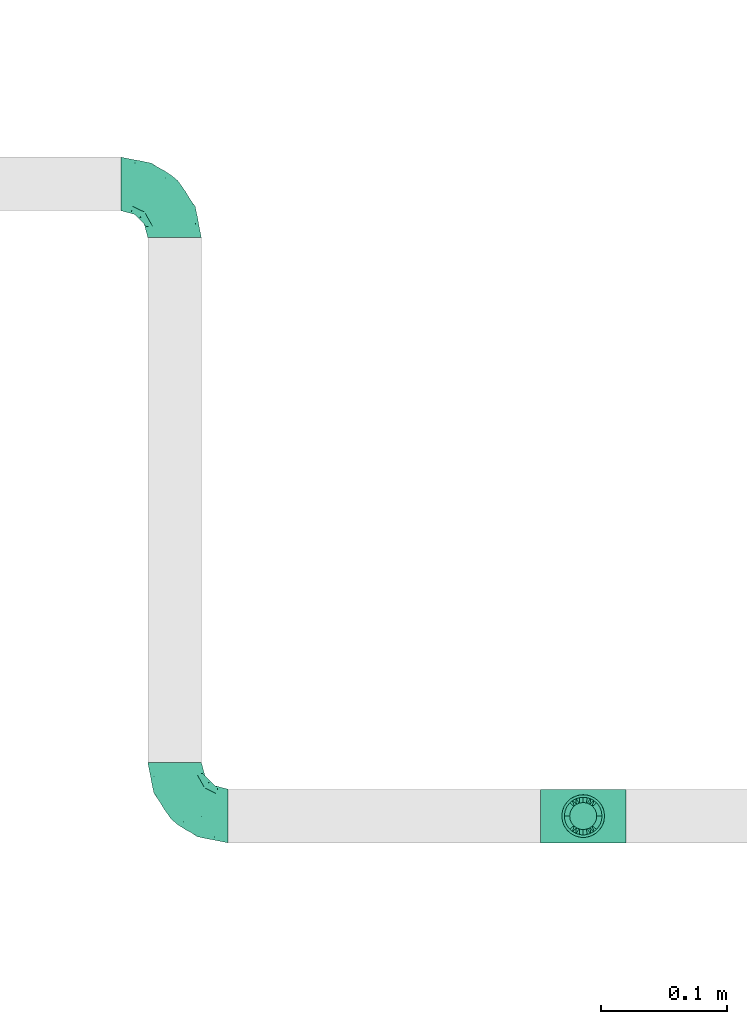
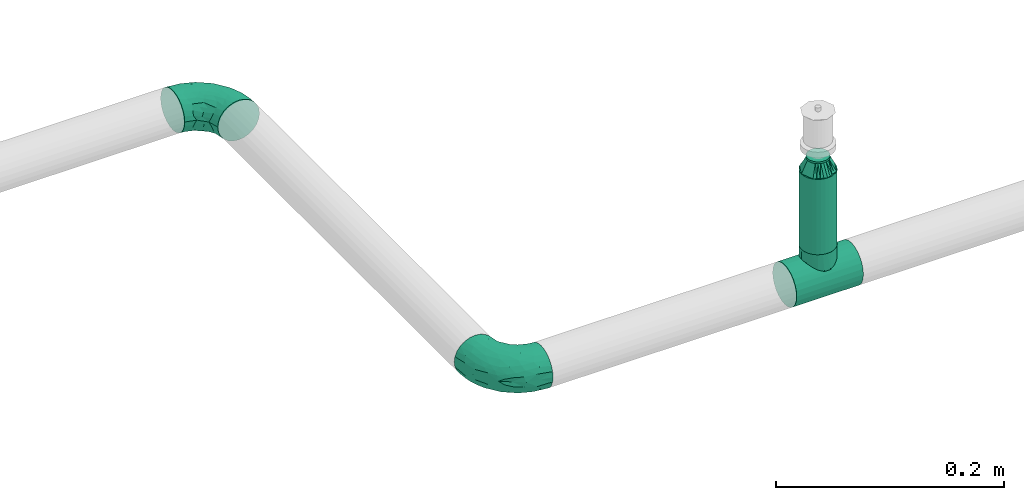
# One storey, part 56 of 94: 4 flow fittings, 1 flow segment.
"""IFC2X3 building model written with IfcOpenShell, lengths in millimetres."""

from ifc_helpers import new_model, entity, si_unit, converted_unit, derived_unit, direction, frame, origin_with_axes, origin_2d_with_axis, place, context, subcontext, project, spatial, hollow_circle, extrude, open_shell, surface_model, source, transform, mapped, type_object, element, save


model = new_model("IFC2X3")

# Units and contexts
model_context = context("Model", 3, precision=0.01, world=frame((0.0, 4.29681676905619e-09, 0.0)), true_north=direction((4.01073788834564e-13, 1.0)))
plan_context = context("Plan", 3, precision=0.01, world=frame((0.0, 4.29681676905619e-09, 0.0)), true_north=direction((4.01073788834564e-13, 1.0)))
body_context = subcontext(model_context, "Body", "Model", "MODEL_VIEW")
ifc_project = project(units=[converted_unit("PLANEANGLEUNIT", "DEGREE", entity("IfcPositiveLengthMeasure", 0.0174532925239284), si_unit("PLANEANGLEUNIT", "RADIAN"), dimensions=[0, 0, 0, 0, 0, 0, 0]), si_unit("AREAUNIT", "SQUARE_METRE"), si_unit("LENGTHUNIT", "METRE", prefix="MILLI"), si_unit("MASSUNIT", "GRAM", prefix="KILO"), si_unit("POWERUNIT", "WATT"), si_unit("PRESSUREUNIT", "PASCAL"), si_unit("FORCEUNIT", "NEWTON", prefix="KILO"), si_unit("ELECTRICCURRENTUNIT", "AMPERE"), si_unit("THERMODYNAMICTEMPERATUREUNIT", "DEGREE_CELSIUS"), si_unit("TIMEUNIT", "SECOND"), si_unit("VOLUMEUNIT", "CUBIC_METRE"), derived_unit("LINEARVELOCITYUNIT", [(si_unit("LENGTHUNIT", "METRE"), 1), (si_unit("TIMEUNIT", "SECOND"), -1)]), derived_unit("VOLUMETRICFLOWRATEUNIT", [(si_unit("VOLUMEUNIT", "CUBIC_METRE"), 1), (si_unit("TIMEUNIT", "SECOND"), -1)]), derived_unit("THERMALTRANSMITTANCEUNIT", [(si_unit("POWERUNIT", "WATT"), 1), (si_unit("THERMODYNAMICTEMPERATUREUNIT", "KELVIN"), -1), (si_unit("AREAUNIT", "SQUARE_METRE"), -1)])], contexts=[model_context, plan_context])

# Site, building, storey
site_placement = place(None, frame((0.0, -4.29681676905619e-09, 0.0), z_axis=(0.0, 0.0, 1.0), x_axis=(1.0, 0.0, 0.0)))
site = spatial("IfcSite", under=ifc_project, at=site_placement, CompositionType="ELEMENT")
building_placement = place(site_placement, frame((0.0, 4.29681676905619e-09, 0.0), z_axis=(0.0, 0.0, 1.0), x_axis=(1.0, 0.0, 0.0)))
building = spatial("IfcBuilding", under=site, at=building_placement, Name="mc-building", CompositionType="ELEMENT")
storey_placement = place(building_placement, frame((0.0, 0.0, 200300.0), z_axis=(0.0, 0.0, 1.0), x_axis=(1.0, 0.0, 0.0)))
storey = spatial("IfcBuildingStorey", under=building, at=storey_placement, Name="Nivå C", CompositionType="ELEMENT", Elevation=200300.0)

# Flow fittings
pipe_fitting_type_1 = type_object("IfcPipeFittingType", Name="magi_pipe_fe_reducer_centric_short_NOR", PredefinedType="TRANSITION")
shared_shape_1 = source(origin_with_axes(), body_context, "Body", "SurfaceModel", [
    surface_model("IfcShellBasedSurfaceModel", [(14.4, 5.35, -9.26647), (14.4, 0.0, -10.7), (14.4, 2.76936, -10.33541), (14.4, 10.33541, -2.76936), (14.4, 7.56604, -7.56604), (14.4, -10.33541, -2.76936), (14.4, 9.26647, -5.35), (14.4, 0.0, 10.7), (14.4, -5.35, -9.26647), (14.4, -2.76936, -10.33541), (14.4, -7.56604, -7.56604), (14.4, -9.26647, -5.35), (14.4, 10.7, 0.0), (14.4, 10.33541, 2.76936), (14.4, 9.26647, 5.35), (14.4, 7.56604, 7.56604), (14.4, 2.76936, 10.33541), (14.4, 5.35, 9.26647), (14.4, -10.33541, 2.76936), (14.4, -7.56604, 7.56604), (14.4, -9.26647, 5.35), (14.4, -10.7, 0.0), (14.4, -2.76936, 10.33541), (14.4, -5.35, 9.26647), (12.4, 2.76936, 10.33541), (12.4, -10.33541, -2.76936), (12.4, 0.0, 10.7), (12.4, 5.35, 9.26647), (12.4, 7.56604, 7.56604), (12.4, 9.26647, 5.35), (12.4, 10.33541, 2.76936), (12.4, -10.33541, 2.76936), (12.4, -2.76936, 10.33541), (12.4, -7.56604, 7.56604), (12.4, -5.35, 9.26647), (12.4, -9.26647, 5.35), (12.4, -10.7, 0.0), (12.4, 10.33541, -2.76936), (12.4, 5.35, -9.26647), (12.4, 9.26647, -5.35), (12.4, 7.56604, -7.56604), (12.4, 2.76936, -10.33541), (12.4, -9.26647, -5.35), (12.4, -5.35, -9.26647), (12.4, -7.56604, -7.56604), (12.4, 0.0, -10.7), (12.4, -2.76936, -10.33541), (12.4, 10.7, 0.0), (-2.0, 11.9501, 11.9501), (-2.0, 0.0, 16.9), (-2.0, 4.37404, 16.32415), (-2.0, 8.45, 14.63583), (-2.0, 14.63583, 8.45), (-2.0, 16.32415, 4.37404), (-2.0, -16.32415, 4.37404), (-2.0, -8.45, 14.63583), (-2.0, -14.63583, 8.45), (-2.0, -11.9501, 11.9501), (-2.0, -4.37404, 16.32415), (-2.0, -16.32415, -4.37404), (-2.0, -16.9, 0.0), (-2.0, -8.45, -14.63583), (-2.0, 16.32415, -4.37404), (-2.0, 11.9501, -11.9501), (-2.0, 14.63583, -8.45), (-2.0, 8.45, -14.63583), (-2.0, 4.37404, -16.32415), (-2.0, 0.0, -16.9), (-2.0, -11.9501, -11.9501), (-2.0, -14.63583, -8.45), (-2.0, -4.37404, -16.32415), (-2.0, 16.9, 0.0), (0.0, 4.37404, -16.32415), (0.0, 8.45, -14.63583), (0.0, 11.9501, -11.9501), (0.0, 0.0, -16.9), (0.0, 16.32415, -4.37404), (0.0, 16.32415, 4.37404), (0.0, 14.63583, -8.45), (0.0, -8.45, -14.63583), (0.0, -4.37404, -16.32415), (0.0, -11.9501, -11.9501), (0.0, -16.32415, -4.37404), (0.0, -14.63583, -8.45), (0.0, -16.32415, 4.37404), (0.0, 16.9, 0.0), (0.0, 14.63583, 8.45), (0.0, 11.9501, 11.9501), (0.0, 4.37404, 16.32415), (0.0, 8.45, 14.63583), (0.0, 0.0, 16.9), (0.0, -14.63583, 8.45), (0.0, -16.9, 0.0), (0.0, -8.45, 14.63583), (0.0, -11.9501, 11.9501), (0.0, -4.37404, 16.32415), (12.4, 9.3625, -2.31662), (0.0, 14.42505, -5.97505), (0.0, 15.66253, -2.98753), (12.4, -6.6875, -6.94985), (0.0, -13.18758, -8.96258), (0.0, 2.98753, -15.66253), (12.4, 0.0, -9.26647), (12.4, 6.6875, -6.94985), (0.0, 8.96258, -13.18758), (12.4, -9.3625, -2.31662), (0.0, -15.66253, -2.98753), (0.0, -14.42505, -5.97505), (0.0, 5.97505, -14.42505), (0.0, -2.98753, -15.66253), (0.0, -8.96258, -13.18758), (0.0, 13.18758, -8.96258), (12.4, 8.025, -4.63324), (12.4, -2.675, -9.26647), (12.4, 2.675, -9.26647), (0.0, -5.97505, -14.42505), (12.4, -8.025, -4.63324), (12.4, -9.3625, 2.31662), (0.0, -14.42505, 5.97505), (0.0, -15.66253, 2.98753), (12.4, 6.6875, 6.94985), (0.0, 13.18758, 8.96258), (0.0, -2.98753, 15.66253), (12.4, 0.0, 9.26647), (12.4, -6.6875, 6.94985), (0.0, -8.96258, 13.18758), (12.4, 9.3625, 2.31662), (0.0, 15.66253, 2.98753), (0.0, 14.42505, 5.97505), (0.0, -5.97505, 14.42505), (0.0, 2.98753, 15.66253), (0.0, 8.96258, 13.18758), (0.0, -13.18758, 8.96258), (12.4, -8.025, 4.63324), (12.4, 2.675, 9.26647), (12.4, -2.675, 9.26647), (0.0, 5.97505, 14.42505), (12.4, 8.025, 4.63324)], [open_shell([[[0, 1, 2]], [[3, 0, 4]], [[5, 0, 3]], [[3, 4, 6]], [[7, 5, 3]], [[1, 8, 9]], [[1, 0, 8]], [[10, 5, 11]], [[5, 10, 8]], [[0, 5, 8]], [[3, 12, 13]], [[13, 14, 15]], [[13, 15, 16]], [[7, 3, 16]], [[16, 15, 17]], [[7, 18, 5]], [[18, 19, 20]], [[21, 5, 18]], [[19, 22, 23]], [[22, 19, 18]], [[7, 22, 18]], [[13, 16, 3]], [[24, 25, 26]], [[27, 25, 24]], [[28, 29, 30]], [[28, 25, 27]], [[31, 26, 25]], [[32, 33, 34]], [[33, 32, 31]], [[33, 31, 35]], [[32, 26, 31]], [[31, 25, 36]], [[30, 37, 28]], [[25, 28, 37]], [[38, 37, 39]], [[37, 38, 25]], [[38, 39, 40]], [[41, 25, 38]], [[42, 43, 44]], [[43, 42, 25]], [[43, 45, 46]], [[43, 25, 41]], [[41, 45, 43]], [[37, 30, 47]], [[25, 5, 36]], [[42, 11, 25]], [[8, 44, 43]], [[42, 44, 10]], [[9, 43, 46]], [[25, 11, 5]], [[5, 21, 36]], [[9, 8, 43]], [[10, 44, 8]], [[10, 11, 42]], [[1, 9, 46]], [[46, 45, 1]], [[41, 2, 45]], [[38, 0, 41]], [[6, 40, 39]], [[38, 40, 4]], [[3, 39, 37]], [[38, 4, 0]], [[0, 2, 41]], [[12, 3, 37]], [[6, 39, 3]], [[6, 4, 40]], [[47, 12, 37]], [[45, 2, 1]], [[30, 13, 47]], [[29, 14, 30]], [[17, 28, 27]], [[29, 28, 15]], [[16, 27, 24]], [[30, 14, 13]], [[13, 12, 47]], [[16, 17, 27]], [[15, 28, 17]], [[15, 14, 29]], [[7, 16, 24]], [[24, 26, 7]], [[32, 22, 26]], [[34, 23, 32]], [[20, 33, 35]], [[34, 33, 19]], [[18, 35, 31]], [[34, 19, 23]], [[23, 22, 32]], [[21, 18, 31]], [[20, 35, 18]], [[20, 19, 33]], [[36, 21, 31]], [[26, 22, 7]], [[48, 49, 50]], [[48, 50, 51]], [[48, 52, 53]], [[48, 53, 49]], [[49, 53, 54]], [[55, 56, 57]], [[55, 58, 49]], [[56, 55, 49]], [[49, 54, 56]], [[54, 59, 60]], [[54, 53, 61]], [[53, 62, 63]], [[63, 62, 64]], [[63, 65, 66]], [[61, 53, 63]], [[67, 63, 66]], [[59, 68, 69]], [[68, 59, 61]], [[61, 67, 70]], [[59, 54, 61]], [[63, 67, 61]], [[53, 71, 62]], [[72, 73, 74]], [[75, 72, 74]], [[74, 76, 77]], [[76, 74, 78]], [[74, 77, 79]], [[75, 79, 80]], [[75, 74, 79]], [[81, 82, 83]], [[82, 81, 79]], [[79, 84, 82]], [[77, 76, 85]], [[77, 86, 87]], [[77, 87, 88]], [[88, 84, 79]], [[88, 87, 89]], [[84, 88, 90]], [[90, 91, 84]], [[92, 82, 84]], [[91, 93, 94]], [[91, 90, 93]], [[93, 90, 95]], [[79, 77, 88]], [[59, 82, 60]], [[69, 83, 59]], [[79, 68, 61]], [[69, 68, 81]], [[80, 61, 70]], [[59, 83, 82]], [[82, 92, 60]], [[80, 79, 61]], [[81, 68, 79]], [[81, 83, 69]], [[75, 80, 70]], [[70, 67, 75]], [[66, 72, 67]], [[65, 73, 66]], [[78, 63, 64]], [[65, 63, 74]], [[76, 64, 62]], [[65, 74, 73]], [[73, 72, 66]], [[85, 76, 62]], [[78, 64, 76]], [[78, 74, 63]], [[71, 85, 62]], [[67, 72, 75]], [[53, 77, 71]], [[52, 86, 53]], [[89, 48, 51]], [[52, 48, 87]], [[88, 51, 50]], [[53, 86, 77]], [[77, 85, 71]], [[88, 89, 51]], [[87, 48, 89]], [[87, 86, 52]], [[90, 88, 50]], [[50, 49, 90]], [[58, 95, 49]], [[55, 93, 58]], [[91, 57, 56]], [[55, 57, 94]], [[84, 56, 54]], [[55, 94, 93]], [[93, 95, 58]], [[92, 84, 54]], [[91, 56, 84]], [[91, 94, 57]], [[60, 92, 54]], [[49, 95, 90]], [[27, 34, 47]], [[47, 34, 43]], [[43, 38, 47]], [[43, 34, 36]], [[90, 87, 94]], [[92, 94, 87]], [[87, 74, 92]], [[75, 92, 74]], [[81, 92, 75]], [[74, 87, 85]], [[96, 97, 98]], [[81, 99, 100]], [[101, 102, 75]], [[98, 85, 47]], [[74, 103, 104]], [[104, 103, 38]], [[105, 106, 107]], [[38, 108, 104]], [[102, 109, 75]], [[110, 99, 81]], [[47, 96, 98]], [[103, 111, 112]], [[109, 102, 113]], [[36, 92, 106]], [[102, 101, 114]], [[110, 115, 43]], [[96, 112, 97]], [[107, 116, 105]], [[36, 106, 105]], [[113, 115, 109]], [[43, 115, 113]], [[116, 107, 100]], [[108, 38, 114]], [[111, 103, 74]], [[111, 97, 112]], [[99, 110, 43]], [[116, 100, 99]], [[101, 108, 114]], [[117, 118, 119]], [[87, 120, 121]], [[122, 123, 90]], [[119, 92, 36]], [[94, 124, 125]], [[125, 124, 34]], [[126, 127, 128]], [[34, 129, 125]], [[123, 130, 90]], [[131, 120, 87]], [[36, 117, 119]], [[124, 132, 133]], [[130, 123, 134]], [[47, 85, 127]], [[123, 122, 135]], [[131, 136, 27]], [[117, 133, 118]], [[128, 137, 126]], [[47, 127, 126]], [[134, 136, 130]], [[27, 136, 134]], [[137, 128, 121]], [[129, 34, 135]], [[132, 124, 94]], [[132, 118, 133]], [[120, 131, 27]], [[137, 121, 120]], [[122, 129, 135]]])]),
])
flow_fitting_1_placement = place(storey_placement, frame((527500.33534, 410000.1625, 2962.64799999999), z_axis=(0.0, -1.0, 0.0), x_axis=(0.0, 0.0, 1.0)))
element("IfcFlowFitting", 1, at=flow_fitting_1_placement, inside=storey, type_object=pipe_fitting_type_1, Name="magi_pipe_fe_reducer_centric_short_NOR", context=body_context, shape_type="MappedRepresentation", body=[
    mapped(shared_shape_1, transform((0.0, 0.0, 0.0), scale=1.0)),
])
pipe_fitting_type_2 = type_object("IfcPipeFittingType", Name="magi_pipe_fe_elbow_short_001", PredefinedType="BEND")
shared_shape_2 = source(origin_with_axes(), body_context, "Body", "SurfaceModel", [
    surface_model("IfcShellBasedSurfaceModel", [(-42.4, 10.6, -18.35974), (-42.4, 5.48696, -20.47763), (-42.4, 0.0, -21.2), (-42.4, 14.99066, -14.99066), (-42.4, 20.47763, -5.48696), (-42.4, 18.35974, -10.6), (-42.4, -14.99066, 14.99066), (-42.4, -21.2, 0.0), (-42.4, -10.6, -18.35974), (-42.4, -14.99066, -14.99066), (-42.4, -5.48696, -20.47763), (-42.4, -18.35974, -10.6), (-42.4, -20.47763, -5.48696), (-42.4, 10.6, 18.35974), (-42.4, 20.47763, 5.48696), (-42.4, 18.35974, 10.6), (-42.4, 14.99066, 14.99066), (-42.4, 5.48696, 20.47763), (-42.4, 0.0, 21.2), (-42.4, -20.47763, 5.48696), (-42.4, -18.35974, 10.6), (-42.4, -10.6, 18.35974), (-42.4, -5.48696, 20.47763), (-42.4, 21.2, 0.0), (0.0, 42.4, -21.2), (-5.48696, 42.4, -20.47763), (-10.6, 42.4, -18.35974), (-14.99066, 42.4, -14.99066), (-18.35974, 42.4, -10.6), (-20.47763, 42.4, -5.48696), (21.2, 42.4, 0.0), (5.48696, 42.4, -20.47763), (14.99066, 42.4, -14.99066), (10.6, 42.4, -18.35974), (18.35974, 42.4, -10.6), (20.47763, 42.4, -5.48696), (14.99066, 42.4, 14.99066), (-20.47763, 42.4, 5.48696), (-10.6, 42.4, 18.35974), (-14.99066, 42.4, 14.99066), (-18.35974, 42.4, 10.6), (-5.48696, 42.4, 20.47763), (0.0, 42.4, 21.2), (18.35974, 42.4, 10.6), (20.47763, 42.4, 5.48696), (5.48696, 42.4, 20.47763), (10.6, 42.4, 18.35974), (-21.2, 42.4, 0.0), (-31.10239, -16.47009, 11.90111), (-27.83957, -12.231, 15.79732), (-30.23067, -18.77937, 0.0), (-18.74048, -13.50096, 10.69998), (-28.17586, -18.50359, 6.61185), (18.50359, 28.17586, 6.61185), (14.95929, 16.60735, 5.43468), (16.35874, 18.06133, 0.0), (-20.72313, 33.83635, 9.21426), (-17.70981, 33.00599, 13.92769), (-31.16033, -8.01664, 19.07348), (-32.38682, -2.80842, 20.83743), (-29.68688, 3.24967, 21.16387), (-7.74467, -9.46536, 0.0), (-16.60735, -14.95929, 5.43468), (-18.06133, -16.35874, 0.0), (-16.37932, -5.14532, 17.61254), (-21.10659, -0.19025, 20.54817), (-1.82445, -3.58377, 9.55223), (-0.35533, 0.43745, 12.66367), (-7.20655, -5.07682, 13.06146), (-33.14056, 17.6728, 13.91288), (-7.36799, 20.84806, 21.16196), (-15.70315, 15.70315, 20.68489), (-12.62356, 9.26422, 21.0908), (-36.67879, 12.83836, 17.27427), (-7.91358, 36.5686, 19.85759), (-2.90555, 31.71221, 21.14793), (-33.84689, 20.71971, 9.21285), (-33.51649, 22.58113, 4.66115), (-26.3226, 26.3226, 7.92474), (-32.67995, 8.31454, 20.02643), (-5.53379, 14.19921, 20.81623), (-10.53385, 3.88918, 19.79653), (-2.16577, 11.45378, 19.48254), (-3.78693, 3.78693, 17.3328), (12.231, 27.83957, 15.79732), (13.50096, 18.74047, 10.69998), (16.47009, 31.10239, 11.90111), (-22.53806, 14.38475, 19.60876), (-23.29615, 9.08095, 20.82061), (2.80842, 32.38682, 20.83743), (8.01664, 31.16033, 19.07348), (5.14532, 16.37932, 17.61254), (18.77937, 30.23067, 0.0), (-20.80278, 5.19491, 21.19095), (-19.62579, 22.38752, 17.42006), (-29.19336, 14.39093, 17.85259), (-22.31569, 34.20044, 4.54807), (-26.56962, 27.80621, 3.73106), (9.67657, 17.17133, 14.49993), (-24.04026, 31.8, 0.0), (-9.16861, 28.72652, 20.19004), (-12.09761, 21.9456, 20.37969), (-15.36991, 27.40112, 17.818), (-16.88976, 20.52477, 19.2896), (-12.95169, 35.54896, 17.36222), (-17.17133, -9.67657, 14.49993), (-21.98655, 28.10245, 11.99898), (-22.34699, 23.67592, 15.01692), (-27.22822, 22.77969, 11.82161), (0.19025, 21.10658, 20.54817), (4.8276, 7.36347, 13.42842), (-10.06209, -9.46364, 9.95114), (1.25876, -2.7536, 5.73797), (6.43781, 3.77591, 7.40371), (6.57528, 2.20066, 3.17705), (10.91934, 8.84313, 5.00748), (10.64415, 10.99764, 8.89767), (-31.8, 24.04026, 0.0), (-5.71381, -8.43063, 6.15529), (2.57199, -2.57199, 0.0), (9.46536, 7.74467, 0.0), (-17.17133, -9.67657, -14.49993), (-27.83957, -12.231, -15.79732), (-16.37932, -5.14532, -17.61254), (-18.74048, -13.50096, -10.69998), (-33.00599, 17.70981, -13.92769), (-35.54896, 12.95169, -17.36222), (-34.20044, 22.31569, -4.54807), (-28.17586, -18.50359, -6.61185), (-26.3226, 26.3226, -7.92474), (-33.83635, 20.72313, -9.21426), (-16.60735, -14.95929, -5.43468), (-20.52477, 16.88976, -19.2896), (-21.9456, 12.0976, -20.37969), (-27.40112, 15.36991, -17.818), (-12.83836, 36.67879, -17.27427), (-17.6728, 33.14056, -13.91288), (8.01664, 31.16033, -19.07348), (5.14532, 16.37932, -17.61254), (0.19025, 21.10658, -20.54817), (-36.5686, 7.91358, -19.85759), (-31.10239, -16.47009, -11.90111), (-31.16033, -8.01664, -19.07348), (-14.38475, 22.53806, -19.60876), (-8.31454, 32.67995, -20.02643), (-9.08095, 23.29615, -20.82061), (-32.38682, -2.80842, -20.83743), (-20.84806, 7.36799, -21.16196), (-15.70315, 15.70314, -20.68489), (-9.26422, 12.62356, -21.0908), (-31.71221, 2.90555, -21.14793), (-22.58113, 33.51649, -4.66115), (-20.71971, 33.84689, -9.21285), (-28.72652, 9.16861, -20.19004), (-27.80621, 26.56962, -3.73106), (-5.19491, 20.80278, -21.19095), (-22.38752, 19.62579, -17.42006), (-14.39093, 29.19336, -17.85259), (2.80842, 32.38682, -20.83743), (-3.24967, 29.68688, -21.16387), (16.47009, 31.10239, -11.90111), (12.231, 27.83957, -15.79732), (6.57528, 2.20067, -3.17705), (10.91934, 8.84313, -5.00749), (-14.19921, 5.53379, -20.81623), (-3.88918, 10.53385, -19.79653), (-11.45378, 2.16577, -19.48254), (1.25876, -2.7536, -5.73797), (-5.71381, -8.43063, -6.15529), (-1.82445, -3.58377, -9.55223), (13.50096, 18.74048, -10.69998), (18.50359, 28.17586, -6.61185), (14.95929, 16.60735, -5.43468), (-28.10245, 21.98655, -11.99898), (9.67657, 17.17133, -14.49993), (10.64415, 10.99764, -8.89767), (4.8276, 7.36347, -13.42842), (-23.67592, 22.34699, -15.01692), (-22.77969, 27.22822, -11.82161), (-21.10658, -0.19025, -20.54817), (-3.78693, 3.78693, -17.3328), (-7.20655, -5.07682, -13.06146), (-10.06209, -9.46364, -9.95113), (-0.35533, 0.43745, -12.66367), (6.43781, 3.77591, -7.40371)], [open_shell([[[0, 1, 2]], [[3, 0, 2]], [[4, 5, 3]], [[2, 4, 3]], [[6, 2, 7]], [[8, 9, 10]], [[11, 10, 9]], [[12, 7, 11]], [[2, 10, 11]], [[11, 7, 2]], [[6, 4, 2]], [[13, 14, 4]], [[15, 14, 16]], [[4, 6, 13]], [[16, 14, 13]], [[17, 13, 18]], [[19, 20, 7]], [[7, 20, 6]], [[21, 22, 6]], [[18, 6, 22]], [[6, 18, 13]], [[23, 4, 14]], [[24, 25, 26]], [[24, 26, 27]], [[27, 28, 29]], [[27, 29, 24]], [[24, 29, 30]], [[31, 32, 33]], [[31, 24, 32]], [[34, 30, 35]], [[32, 24, 34]], [[24, 30, 34]], [[29, 36, 30]], [[29, 37, 38]], [[39, 37, 40]], [[36, 29, 38]], [[38, 37, 39]], [[41, 42, 38]], [[30, 43, 44]], [[36, 43, 30]], [[36, 45, 46]], [[45, 36, 42]], [[38, 42, 36]], [[37, 29, 47]], [[6, 48, 49]], [[19, 7, 50]], [[51, 48, 52]], [[53, 54, 55]], [[48, 6, 20]], [[19, 52, 20]], [[40, 56, 57]], [[49, 21, 6]], [[49, 58, 21]], [[18, 59, 60]], [[61, 62, 63]], [[58, 64, 65]], [[66, 67, 68]], [[15, 16, 69]], [[70, 71, 72]], [[13, 73, 16]], [[22, 59, 18]], [[41, 74, 75]], [[18, 60, 17]], [[15, 69, 76]], [[16, 73, 69]], [[23, 14, 77]], [[14, 15, 76]], [[77, 76, 78]], [[17, 79, 13]], [[80, 81, 82]], [[68, 83, 64]], [[84, 36, 46]], [[85, 86, 84]], [[87, 79, 88]], [[21, 58, 22]], [[42, 89, 45]], [[53, 44, 43]], [[42, 41, 75]], [[84, 90, 91]], [[43, 86, 53]], [[92, 44, 53]], [[86, 43, 36]], [[90, 46, 45]], [[53, 55, 92]], [[88, 93, 72]], [[54, 53, 85]], [[87, 94, 95]], [[78, 96, 97]], [[98, 84, 91]], [[99, 96, 47]], [[79, 17, 60]], [[96, 78, 56]], [[62, 52, 63]], [[57, 39, 40]], [[100, 70, 75]], [[101, 102, 103]], [[19, 50, 52]], [[104, 38, 39]], [[74, 41, 38]], [[57, 102, 104]], [[105, 64, 49]], [[90, 84, 46]], [[40, 37, 56]], [[56, 106, 57]], [[102, 57, 107]], [[95, 107, 69]], [[76, 108, 78]], [[100, 101, 70]], [[89, 75, 109]], [[64, 58, 49]], [[63, 52, 50]], [[59, 58, 65]], [[105, 49, 51]], [[64, 83, 81]], [[89, 90, 45]], [[30, 44, 92]], [[109, 82, 91]], [[109, 91, 90]], [[91, 83, 110]], [[111, 68, 105]], [[66, 68, 111]], [[62, 51, 52]], [[66, 112, 113]], [[114, 115, 113]], [[98, 85, 84]], [[52, 48, 20]], [[49, 48, 51]], [[84, 86, 36]], [[53, 86, 85]], [[88, 79, 60]], [[73, 79, 95]], [[96, 56, 37]], [[78, 108, 106]], [[87, 103, 94]], [[100, 74, 104]], [[108, 69, 107]], [[78, 97, 77]], [[88, 72, 71]], [[109, 75, 70]], [[81, 72, 65]], [[70, 72, 80]], [[75, 89, 42]], [[90, 89, 109]], [[58, 59, 22]], [[60, 59, 65]], [[67, 83, 68]], [[110, 113, 116]], [[88, 60, 93]], [[87, 88, 71]], [[103, 87, 71]], [[79, 87, 95]], [[101, 103, 71]], [[94, 103, 102]], [[47, 96, 37]], [[96, 99, 97]], [[99, 117, 97]], [[97, 117, 77]], [[23, 77, 117]], [[14, 76, 77]], [[60, 65, 93]], [[65, 72, 93]], [[70, 101, 71]], [[102, 101, 100]], [[69, 108, 76]], [[106, 108, 107]], [[57, 106, 107]], [[78, 106, 56]], [[57, 104, 39]], [[100, 104, 102]], [[102, 107, 94]], [[95, 94, 107]], [[64, 81, 65]], [[82, 81, 83]], [[91, 82, 83]], [[80, 82, 109]], [[70, 80, 109]], [[81, 80, 72]], [[79, 73, 13]], [[69, 73, 95]], [[104, 74, 38]], [[75, 74, 100]], [[62, 61, 118]], [[111, 62, 118]], [[113, 115, 116]], [[119, 118, 61]], [[111, 105, 51]], [[113, 112, 114]], [[120, 55, 54]], [[68, 64, 105]], [[91, 110, 98]], [[116, 98, 110]], [[62, 111, 51]], [[66, 111, 118]], [[112, 66, 118]], [[67, 113, 110]], [[118, 119, 112]], [[114, 112, 119]], [[119, 120, 114]], [[115, 120, 54]], [[120, 115, 114]], [[116, 54, 85]], [[54, 116, 115]], [[116, 85, 98]], [[113, 67, 66]], [[83, 67, 110]], [[121, 122, 123]], [[122, 121, 124]], [[5, 125, 3]], [[3, 126, 0]], [[117, 127, 23]], [[50, 12, 128]], [[127, 129, 130]], [[128, 131, 63]], [[132, 133, 134]], [[27, 135, 136]], [[137, 138, 139]], [[0, 140, 1]], [[128, 11, 141]], [[142, 8, 10]], [[128, 63, 50]], [[5, 4, 130]], [[11, 9, 141]], [[143, 144, 145]], [[146, 10, 2]], [[147, 148, 149]], [[11, 128, 12]], [[124, 141, 122]], [[150, 2, 1]], [[151, 152, 129]], [[125, 134, 126]], [[153, 147, 150]], [[127, 154, 129]], [[145, 155, 149]], [[47, 29, 151]], [[143, 156, 157]], [[152, 29, 28]], [[24, 158, 159]], [[122, 9, 8]], [[27, 26, 135]], [[144, 26, 25]], [[32, 160, 161]], [[24, 31, 158]], [[120, 162, 163]], [[130, 125, 5]], [[27, 136, 28]], [[1, 140, 150]], [[33, 161, 137]], [[142, 122, 8]], [[24, 159, 25]], [[164, 165, 166]], [[167, 168, 169]], [[34, 160, 32]], [[161, 33, 32]], [[170, 160, 171]], [[131, 128, 124]], [[30, 92, 35]], [[35, 92, 171]], [[172, 171, 55]], [[35, 171, 34]], [[144, 25, 159]], [[130, 173, 125]], [[174, 175, 176]], [[136, 152, 28]], [[33, 137, 31]], [[122, 142, 123]], [[134, 125, 177]], [[157, 177, 136]], [[152, 178, 129]], [[153, 133, 147]], [[146, 150, 179]], [[146, 142, 10]], [[7, 12, 50]], [[179, 166, 123]], [[179, 123, 142]], [[123, 180, 181]], [[138, 137, 161]], [[55, 171, 92]], [[158, 137, 139]], [[174, 161, 170]], [[138, 180, 165]], [[180, 138, 176]], [[124, 121, 182]], [[176, 183, 180]], [[61, 131, 168]], [[169, 168, 182]], [[172, 170, 171]], [[122, 141, 9]], [[128, 141, 124]], [[171, 160, 34]], [[161, 160, 170]], [[145, 144, 159]], [[135, 144, 157]], [[127, 130, 4]], [[129, 178, 173]], [[143, 132, 156]], [[153, 140, 126]], [[178, 136, 177]], [[129, 154, 151]], [[145, 149, 148]], [[179, 150, 147]], [[165, 149, 139]], [[147, 149, 164]], [[150, 146, 2]], [[142, 146, 179]], [[137, 158, 31]], [[159, 158, 139]], [[174, 138, 161]], [[184, 169, 183]], [[145, 159, 155]], [[143, 145, 148]], [[132, 143, 148]], [[144, 143, 157]], [[133, 132, 148]], [[156, 132, 134]], [[23, 127, 4]], [[127, 117, 154]], [[117, 99, 154]], [[154, 99, 151]], [[47, 151, 99]], [[29, 152, 151]], [[159, 139, 155]], [[139, 149, 155]], [[147, 133, 148]], [[134, 133, 153]], [[136, 178, 152]], [[173, 178, 177]], [[125, 173, 177]], [[129, 173, 130]], [[125, 126, 3]], [[153, 126, 134]], [[134, 177, 156]], [[157, 156, 177]], [[138, 165, 139]], [[166, 165, 180]], [[123, 166, 180]], [[164, 166, 179]], [[147, 164, 179]], [[165, 164, 149]], [[144, 135, 26]], [[136, 135, 157]], [[126, 140, 0]], [[150, 140, 153]], [[182, 131, 124]], [[168, 119, 61]], [[119, 167, 162]], [[63, 131, 61]], [[172, 163, 175]], [[172, 55, 120]], [[123, 181, 121]], [[182, 121, 181]], [[175, 174, 170]], [[176, 138, 174]], [[169, 182, 181]], [[131, 182, 168]], [[183, 169, 181]], [[167, 169, 184]], [[162, 167, 184]], [[119, 168, 167]], [[163, 162, 184]], [[120, 119, 162]], [[175, 163, 184]], [[120, 163, 172]], [[176, 175, 184]], [[172, 175, 170]], [[180, 183, 181]], [[184, 183, 176]]])]),
])
for number, where, z_axis, x_axis, name in (
    (2, (527177.13097, 410500.1625, 2850.0), (0.0, 0.0, 1.0), (0.0, 1.0, 0.0), "magi_pipe_fe_elbow_short_001"),
    (3, (527177.13097, 410000.1625, 2850.0), (0.0, 0.0, 1.0), (0.0, -1.0, 0.0), "magi_pipe_fe_elbow_short_001"),
):
    element("IfcFlowFitting", number, at=place(storey_placement, frame(where, z_axis=z_axis, x_axis=x_axis)), inside=storey, type_object=pipe_fitting_type_2, Name=name, context=body_context, shape_type="MappedRepresentation", body=[
        mapped(shared_shape_2, transform((0.0, 0.0, 0.0), scale=1.0)),
    ])
pipe_fitting_type_3 = type_object("IfcPipeFittingType", Name="magi_pipe_fe_tee_centric_90_NOR", PredefinedType="JUNCTION")
shared_shape_3 = source(origin_with_axes(), body_context, "Body", "SurfaceModel", [
    surface_model("IfcShellBasedSurfaceModel", [(-33.8, 0.0, -21.2), (-33.8, -5.48696, -20.47763), (-33.8, 5.48696, -20.47763), (-33.8, 10.6, -18.35974), (-33.8, 14.99066, -14.99066), (-33.8, -20.47763, 5.48696), (-33.8, 18.35974, -10.6), (-33.8, 10.6, 18.35974), (-33.8, -14.99066, -14.99066), (-33.8, -18.35974, -10.6), (-33.8, -10.6, -18.35974), (-33.8, -20.47763, -5.48696), (-33.8, -21.2, 0.0), (-33.8, 18.35974, 10.6), (-33.8, 20.47763, -5.48696), (-33.8, 20.47763, 5.48696), (-33.8, 21.2, 0.0), (-33.8, 14.99066, 14.99066), (-33.8, 5.48696, 20.47763), (-33.8, 0.0, 21.2), (-33.8, -18.35974, 10.6), (-33.8, -14.99066, 14.99066), (-33.8, -10.6, 18.35974), (-33.8, -5.48696, 20.47763), (33.8, 5.48696, -20.47763), (33.8, -5.48696, -20.47763), (33.8, 0.0, -21.2), (33.8, 14.99066, -14.99066), (33.8, 10.6, -18.35974), (33.8, 18.35974, -10.6), (33.8, 20.47763, -5.48696), (33.8, -21.2, 0.0), (33.8, -10.6, -18.35974), (33.8, -18.35974, -10.6), (33.8, -14.99066, -14.99066), (33.8, -20.47763, -5.48696), (33.8, -20.47763, 5.48696), (33.8, 21.2, 0.0), (33.8, 20.47763, 5.48696), (33.8, 18.35974, 10.6), (33.8, 10.6, 18.35974), (33.8, 14.99066, 14.99066), (33.8, 0.0, 21.2), (33.8, 5.48696, 20.47763), (33.8, -14.99066, 14.99066), (33.8, -18.35974, 10.6), (33.8, -10.6, 18.35974), (33.8, -5.48696, 20.47763), (16.9, -21.2, 0.0), (15.78624, -20.32327, 6.03364), (12.81343, -18.11115, 11.01935), (8.52479, -15.37862, 14.59239), (3.07939, -13.16482, 16.61708), (-16.9, -21.2, 0.0), (-15.78686, -20.32375, 6.032), (-8.52604, -15.37932, 14.59166), (-3.0848, -13.16609, 16.61608), (-12.81602, -18.11299, 11.01634), (3.07939, -13.16482, -16.61708), (12.81343, -18.11115, -11.01935), (8.52479, -15.37862, -14.59239), (15.78624, -20.32327, -6.03364), (-3.0848, -13.16609, -16.61608), (-8.52604, -15.37932, -14.59166), (-12.81602, -18.11299, -11.01634), (-15.78686, -20.32375, -6.032), (4.37404, -31.8, -16.32415), (-16.9, -31.8, 0.0), (0.0, -31.8, -16.9), (14.63583, -31.8, -8.45), (8.45, -31.8, -14.63583), (16.32415, -31.8, -4.37404), (11.9501, -31.8, -11.9501), (-11.9501, -31.8, -11.9501), (-8.45, -31.8, -14.63583), (-4.37404, -31.8, -16.32415), (-14.63583, -31.8, -8.45), (-16.32415, -31.8, -4.37404), (16.9, -31.8, 0.0), (8.45, -31.8, 14.63583), (16.32415, -31.8, 4.37404), (14.63583, -31.8, 8.45), (-8.45, -31.8, 14.63583), (11.9501, -31.8, 11.9501), (4.37404, -31.8, 16.32415), (-16.32415, -31.8, 4.37404), (-11.9501, -31.8, 11.9501), (-14.63583, -31.8, 8.45), (0.0, -31.8, 16.9), (-4.37404, -31.8, 16.32415), (-16.34343, -20.76188, 3.016), (16.34312, -20.76163, 3.01682), (-0.00271, -13.16546, 16.61658), (16.34312, -20.76163, -3.01682), (-0.00271, -13.16546, -16.61658), (-16.34343, -20.76188, -3.016)], [open_shell([[[0, 1, 2]], [[3, 2, 4]], [[5, 2, 1]], [[4, 2, 6]], [[6, 2, 7]], [[8, 9, 10]], [[1, 10, 9]], [[9, 11, 1]], [[12, 1, 11]], [[5, 1, 12]], [[13, 14, 6]], [[13, 15, 16]], [[6, 7, 13]], [[5, 7, 2]], [[17, 13, 7]], [[18, 7, 19]], [[20, 21, 5]], [[22, 5, 21]], [[23, 19, 22]], [[7, 5, 22]], [[22, 19, 7]], [[16, 14, 13]], [[24, 25, 26]], [[27, 24, 28]], [[29, 30, 24]], [[29, 24, 27]], [[31, 24, 30]], [[32, 33, 34]], [[33, 32, 25]], [[33, 31, 35]], [[31, 33, 25]], [[25, 24, 31]], [[30, 36, 31]], [[37, 38, 39]], [[37, 39, 40]], [[37, 40, 36]], [[40, 39, 41]], [[42, 40, 43]], [[36, 44, 45]], [[44, 36, 46]], [[46, 42, 47]], [[46, 36, 40]], [[40, 42, 46]], [[37, 36, 30]], [[31, 36, 48]], [[49, 48, 36]], [[36, 45, 49]], [[45, 44, 50]], [[51, 50, 44]], [[52, 51, 44]], [[44, 46, 52]], [[45, 50, 49]], [[53, 54, 5]], [[5, 12, 53]], [[54, 20, 5]], [[55, 56, 21]], [[20, 57, 21]], [[57, 20, 54]], [[21, 57, 55]], [[56, 22, 21]], [[52, 22, 56]], [[19, 47, 42]], [[23, 46, 47]], [[18, 42, 43]], [[39, 38, 15]], [[17, 40, 41]], [[13, 41, 39]], [[43, 40, 7]], [[16, 38, 37]], [[22, 46, 23]], [[23, 47, 19]], [[18, 19, 42]], [[43, 7, 18]], [[7, 40, 17]], [[13, 17, 41]], [[15, 13, 39]], [[38, 16, 15]], [[46, 22, 52]], [[6, 30, 29]], [[14, 37, 30]], [[4, 29, 27]], [[26, 25, 1]], [[2, 28, 24]], [[0, 24, 26]], [[27, 28, 3]], [[10, 25, 32]], [[16, 37, 14]], [[14, 30, 6]], [[4, 6, 29]], [[27, 3, 4]], [[3, 28, 2]], [[0, 2, 24]], [[1, 0, 26]], [[25, 10, 1]], [[32, 58, 10]], [[34, 59, 60]], [[59, 34, 33]], [[60, 58, 34]], [[34, 58, 32]], [[35, 31, 48]], [[35, 61, 33]], [[61, 35, 48]], [[33, 61, 59]], [[62, 63, 8]], [[8, 64, 9]], [[64, 8, 63]], [[62, 8, 10]], [[65, 53, 11]], [[65, 11, 9]], [[11, 53, 12]], [[65, 9, 64]], [[58, 62, 10]], [[66, 67, 68]], [[69, 66, 70]], [[69, 71, 66]], [[69, 70, 72]], [[67, 66, 71]], [[68, 73, 74]], [[74, 75, 68]], [[76, 67, 77]], [[73, 68, 76]], [[67, 76, 68]], [[71, 78, 67]], [[79, 78, 80]], [[79, 80, 81]], [[82, 67, 79]], [[79, 81, 83]], [[82, 79, 84]], [[85, 86, 87]], [[86, 85, 82]], [[82, 88, 89]], [[85, 67, 82]], [[84, 88, 82]], [[79, 67, 78]], [[85, 90, 67]], [[57, 87, 86]], [[85, 87, 54]], [[86, 82, 55]], [[85, 54, 90]], [[90, 53, 67]], [[54, 87, 57]], [[91, 49, 80]], [[55, 89, 56]], [[55, 57, 86]], [[88, 52, 92]], [[55, 82, 89]], [[52, 88, 84]], [[79, 51, 84]], [[50, 83, 81]], [[83, 51, 79]], [[81, 80, 49]], [[83, 50, 51]], [[51, 52, 84]], [[78, 91, 80]], [[49, 50, 81]], [[91, 78, 48]], [[88, 56, 89]], [[92, 56, 88]], [[71, 93, 78]], [[59, 69, 72]], [[71, 69, 61]], [[72, 70, 60]], [[93, 48, 78]], [[61, 69, 59]], [[60, 66, 58]], [[60, 59, 72]], [[68, 62, 94]], [[60, 70, 66]], [[95, 67, 53]], [[95, 65, 77]], [[71, 61, 93]], [[75, 62, 68]], [[65, 76, 77]], [[73, 76, 64]], [[68, 58, 66]], [[75, 63, 62]], [[63, 75, 74]], [[74, 73, 63]], [[63, 73, 64]], [[64, 76, 65]], [[67, 95, 77]], [[94, 58, 68]]])]),
])
flow_fitting_2_placement = place(storey_placement, frame((527500.33534, 410000.1625, 2850.0), z_axis=(0.0, -1.0, 0.0), x_axis=(-1.0, 0.0, 0.0)))
element("IfcFlowFitting", 4, at=flow_fitting_2_placement, inside=storey, type_object=pipe_fitting_type_3, Name="magi_pipe_fe_tee_centric_90_NOR", context=body_context, shape_type="MappedRepresentation", body=[
    mapped(shared_shape_3, transform((0.0, 0.0, 0.0), scale=1.0)),
])

# Flow segment
pipe_segment_type = type_object("IfcPipeSegmentType", Name="Stålrør normaltykke", PredefinedType="RIGIDSEGMENT")
shared_shape_4 = source(origin_with_axes(), body_context, "Body", "SweptSolid", [
    extrude(hollow_circle(Radius=16.9, WallThickness=2.0, at=origin_2d_with_axis()), frame((0.0, 0.0, 0.0), z_axis=(1.0, 0.0, 0.0), x_axis=(0.0, 1.0, 0.0)), (0.0, 0.0, 1.0), 80.8),
])
flow_segment_placement = place(storey_placement, frame((527500.33534, 410000.1625, 2881.79999999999), z_axis=(0.0, -1.0, 0.0), x_axis=(0.0, 0.0, 1.0)))
element("IfcFlowSegment", 5, at=flow_segment_placement, inside=storey, type_object=pipe_segment_type, Name="Stålrør normaltykke", context=body_context, shape_type="MappedRepresentation", body=[
    mapped(shared_shape_4, transform((0.0, 0.0, 0.0), scale=1.0)),
])

save(model, "model.ifc")
